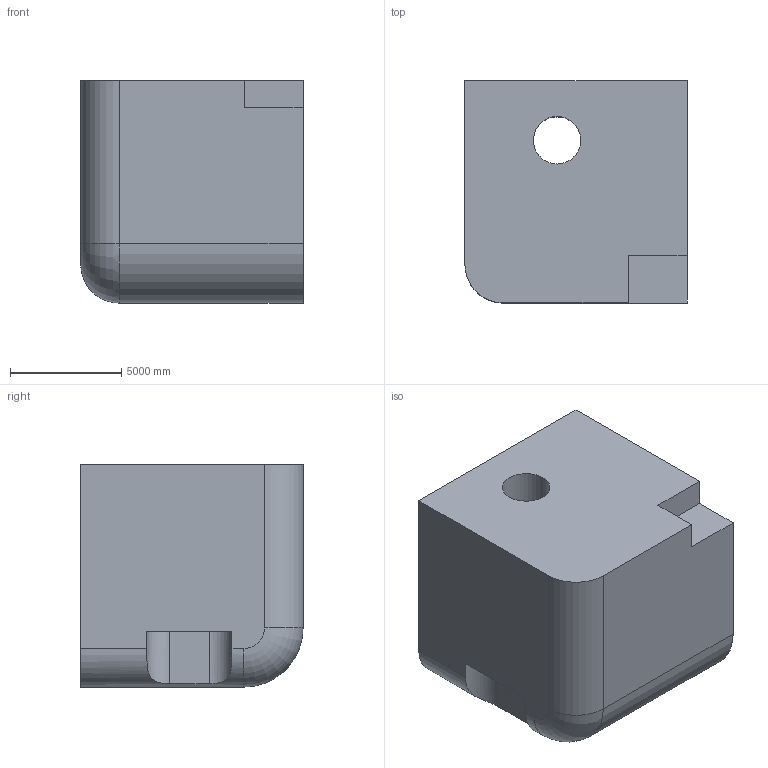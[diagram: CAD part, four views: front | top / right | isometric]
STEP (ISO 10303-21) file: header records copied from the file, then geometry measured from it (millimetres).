
FILE_DESCRIPTION (( 'STEP AP203' ), '1' );
FILE_NAME ('1449.STEP', '2022-08-18T14:32:32', ( 'user' ), ( '' ), 'SwSTEP 2.0', 'SolidWorks 2021', '' );
FILE_SCHEMA (( 'CONFIG_CONTROL_DESIGN' ));
Length unit declared in the file: centimetre
Products named in the file (1): 1449
Bounding box: 10000 x 10000 x 10000 mm (x, y, z)
Volume: 923715344656.8 mm3; surface area: 633994277.2 mm2
Topology: 1 solids, 1 shells, 19 faces, 49 edges, 32 vertices
Faces by surface type: plane 11, cylinder 7, torus 1
Entity records: 848 total; most frequent: CARTESIAN_POINT 292, DIRECTION 100, ORIENTED_EDGE 98, EDGE_CURVE 49, VECTOR 34, LINE 34, AXIS2_PLACEMENT_3D 33, VERTEX_POINT 32
